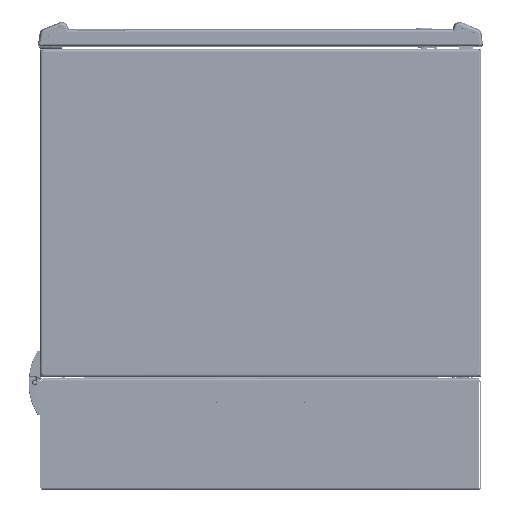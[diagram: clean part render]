
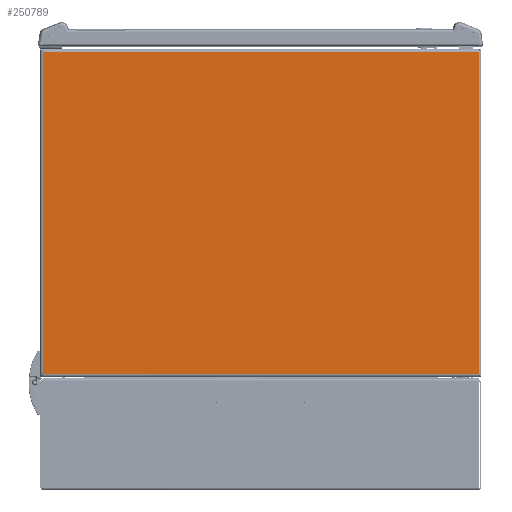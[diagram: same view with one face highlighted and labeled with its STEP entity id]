
A CAD part, front view. The second image highlights one B-rep face of the part: STEP entity #250789.
In plain terms, the highlighted planar face has unit normal (0, -1, 0) as drawn and (0, 1, 0) by its records, which use the part's own axes.
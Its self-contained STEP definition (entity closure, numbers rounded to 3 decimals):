
#10671 = DIRECTION ( 'NONE',  ( 1., 0., 0. ) ) ;
#12783 = AXIS2_PLACEMENT_3D ( 'NONE', #63264, #150854, #20353 ) ;
#20353 = DIRECTION ( 'NONE',  ( 0., 0., 1. ) ) ;
#35389 = ORIENTED_EDGE ( 'NONE', *, *, #193562, .T. ) ;
#38552 = CARTESIAN_POINT ( 'NONE',  ( -296.647, 0., 219.547 ) ) ;
#43632 = CARTESIAN_POINT ( 'NONE',  ( 296.647, 0., 219.547 ) ) ;
#45127 = ORIENTED_EDGE ( 'NONE', *, *, #93821, .F. ) ;
#56033 = ORIENTED_EDGE ( 'NONE', *, *, #163830, .T. ) ;
#62044 = EDGE_CURVE ( 'NONE', #105950, #146782, #172626, .T. ) ;
#63264 = CARTESIAN_POINT ( 'NONE',  ( -300., 0., 222.9 ) ) ;
#64800 = VECTOR ( 'NONE', #91402, 1000. ) ;
#69177 = EDGE_LOOP ( 'NONE', ( #56033, #77840, #45127, #35389 ) ) ;
#69472 = CARTESIAN_POINT ( 'NONE',  ( -296.647, 0., 222.9 ) ) ;
#77840 = ORIENTED_EDGE ( 'NONE', *, *, #62044, .T. ) ;
#91402 = DIRECTION ( 'NONE',  ( 0., 0., -1. ) ) ;
#93821 = EDGE_CURVE ( 'NONE', #259078, #146782, #187481, .T. ) ;
#105950 = VERTEX_POINT ( 'NONE', #167583 ) ;
#110359 = DIRECTION ( 'NONE',  ( -1., 0., 0. ) ) ;
#143313 = VECTOR ( 'NONE', #190126, 1000. ) ;
#146782 = VERTEX_POINT ( 'NONE', #271709 ) ;
#150854 = DIRECTION ( 'NONE',  ( 0., 1., 0. ) ) ;
#158548 = VECTOR ( 'NONE', #10671, 1000. ) ;
#163830 = EDGE_CURVE ( 'NONE', #173893, #105950, #201332, .T. ) ;
#167583 = CARTESIAN_POINT ( 'NONE',  ( 296.647, 0., -219.547 ) ) ;
#172626 = LINE ( 'NONE', #197039, #274650 ) ;
#173893 = VERTEX_POINT ( 'NONE', #43632 ) ;
#184049 = CARTESIAN_POINT ( 'NONE',  ( -296.647, 0., 219.547 ) ) ;
#187481 = LINE ( 'NONE', #69472, #64800 ) ;
#190126 = DIRECTION ( 'NONE',  ( 0., 0., -1. ) ) ;
#193562 = EDGE_CURVE ( 'NONE', #259078, #173893, #281086, .T. ) ;
#197039 = CARTESIAN_POINT ( 'NONE',  ( 296.647, 0., -219.547 ) ) ;
#201332 = LINE ( 'NONE', #212049, #143313 ) ;
#212049 = CARTESIAN_POINT ( 'NONE',  ( 296.647, 0., 222.9 ) ) ;
#220055 = FACE_OUTER_BOUND ( 'NONE', #69177, .T. ) ;
#250789 = ADVANCED_FACE ( 'NONE', ( #220055 ), #281137, .T. ) ;
#259078 = VERTEX_POINT ( 'NONE', #38552 ) ;
#271709 = CARTESIAN_POINT ( 'NONE',  ( -296.647, 0., -219.547 ) ) ;
#274650 = VECTOR ( 'NONE', #110359, 1000. ) ;
#281086 = LINE ( 'NONE', #184049, #158548 ) ;
#281137 = PLANE ( 'NONE',  #12783 ) ;
